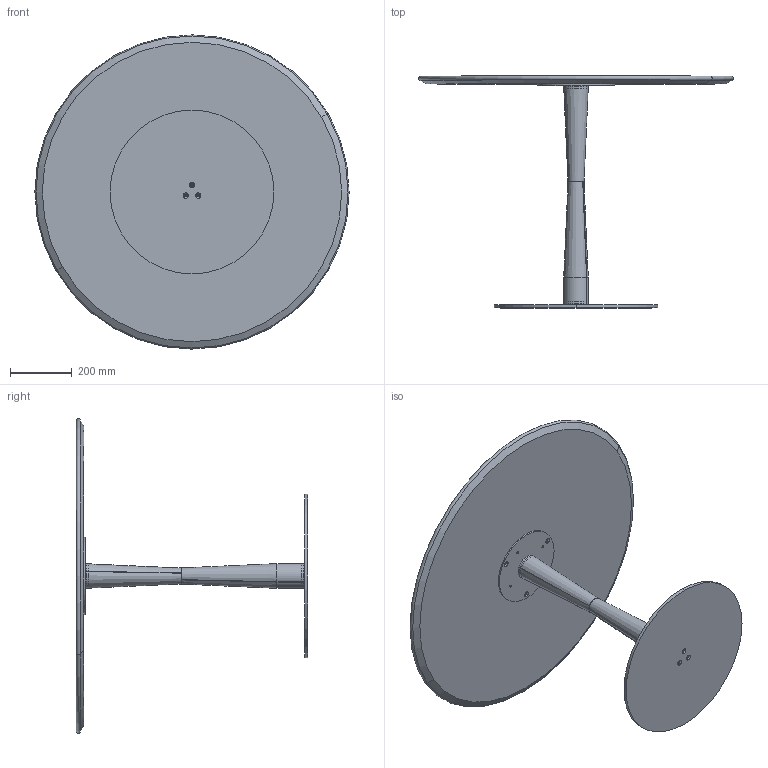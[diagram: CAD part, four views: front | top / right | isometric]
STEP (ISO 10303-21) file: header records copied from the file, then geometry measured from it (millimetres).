
FILE_DESCRIPTION (( 'STEP AP203' ), '1' );
FILE_NAME ('FI30A.STEP', '2024-08-08T08:02:44', ( '' ), ( '' ), 'SwSTEP 2.0', 'SolidWorks 2022', '' );
FILE_SCHEMA (( 'CONFIG_CONTROL_DESIGN' ));
Length unit declared in the file: millimetre
Products named in the file (10): BOMB0001-00-PIANO LEGNO CON INCASSO Ø100_MDF per Ø100cm; FIL000000_01-00-Tubo Conificato superiore_tagliato; FI30A; CBS000000BAS-00-BISTRO PIASTRA INFERIORE_D.530; Assieme piani incassatti cristallo_Ø100cm; FIL000000_02-00-Tubo Conificato inferiore_tagliato; CBS200000PST-00-CONTROPIASTRA PER PIASTRA D.25cm GREZZO_250; C1XCRMXX-00-piani Rotondi Cristallo_C03 D.100cm; FIL000000COL-01-FILU'' COLONNA CENTRALE; FIL000000_03-00-Piastra per Tubi conificati FILU
Assembly tree (10 placements, depth 3):
  FI30A
    CBS000000BAS-00-BISTRO PIASTRA INFERIORE_D.530
    CBS200000PST-00-CONTROPIASTRA PER PIASTRA D.25cm GREZZO_250
    FIL000000COL-01-FILU'' COLONNA CENTRALE
      FIL000000_02-00-Tubo Conificato inferiore_tagliato
      FIL000000_01-00-Tubo Conificato superiore_tagliato
      FIL000000_03-00-Piastra per Tubi conificati FILU  x2
    Assieme piani incassatti cristallo_Ø100cm
      BOMB0001-00-PIANO LEGNO CON INCASSO Ø100_MDF per Ø100cm
      C1XCRMXX-00-piani Rotondi Cristallo_C03 D.100cm
Bounding box: 1017 x 750 x 1017 mm (x, y, z)
Volume: 25646161.4 mm3; surface area: 4157491.1 mm2
Topology: 8 solids, 8 shells, 117 faces, 268 edges, 168 vertices
Faces by surface type: cylinder 62, cone 36, plane 17, torus 2
Entity records: 4252 total; most frequent: DIRECTION 642, CARTESIAN_POINT 518, ORIENTED_EDGE 488, AXIS2_PLACEMENT_3D 276, EDGE_CURVE 244, CIRCLE 154, VERTEX_POINT 152, EDGE_LOOP 152
